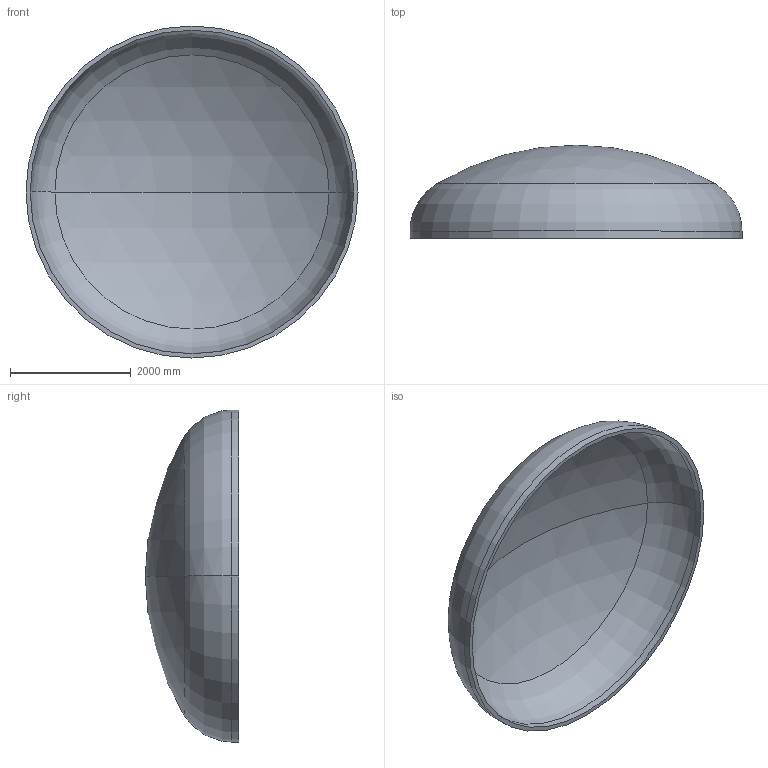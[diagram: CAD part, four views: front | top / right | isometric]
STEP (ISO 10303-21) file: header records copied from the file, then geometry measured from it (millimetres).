
FILE_DESCRIPTION (( 'STEP AP203' ), '1' );
FILE_NAME ('DIN 28013 Korbbogenform_-_Boden DIN 28013 - 5500 x 120 - I - s=70.step', '2016-07-04T10:34:42', ( '' ), ( '' ), 'SwSTEP 2.0', 'SolidWorks 2013', '' );
FILE_SCHEMA (( 'CONFIG_CONTROL_DESIGN' ));
Length unit declared in the file: millimetre
Products named in the file (1): DIN 28013 Korbbogenform_-_Boden DIN 28013 - 5500 x 120 - I - s=70
Bounding box: 5500 x 1545.2 x 5500 mm (x, y, z)
Volume: 2407157416.4 mm3; surface area: 69980282.3 mm2
Topology: 1 solids, 1 shells, 13 faces, 24 edges, 14 vertices
Faces by surface type: torus 4, cylinder 4, sphere 4, plane 1
Entity records: 407 total; most frequent: DIRECTION 72, CARTESIAN_POINT 52, ORIENTED_EDGE 48, AXIS2_PLACEMENT_3D 34, EDGE_CURVE 24, CIRCLE 20, VERTEX_POINT 14, EDGE_LOOP 14
